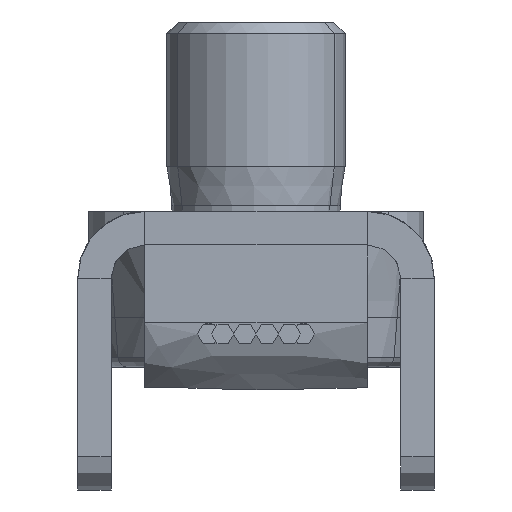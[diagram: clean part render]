
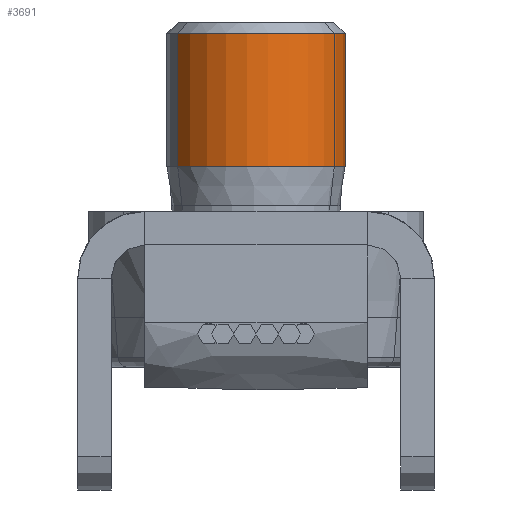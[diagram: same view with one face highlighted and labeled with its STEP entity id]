
A CAD part, front view. The second image highlights one B-rep face of the part: STEP entity #3691.
In plain terms, the highlighted cylindrical face has radius 0.8 mm (diameter 1.6 mm), a partial arc.
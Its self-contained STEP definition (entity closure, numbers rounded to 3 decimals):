
#3173=CARTESIAN_POINT('Vertex',(-1.8,-0.384,-0.702)) ;
#3180=CARTESIAN_POINT('Vertex',(-1.8,0.384,0.702)) ;
#3327=CARTESIAN_POINT('Axis2P3D Location',(-1.8,0.,0.)) ;
#3649=CARTESIAN_POINT('Axis2P3D Location',(-1.55,0.,0.)) ;
#3654=CARTESIAN_POINT('Line Origine',(-2.45,0.384,0.702)) ;
#3658=CARTESIAN_POINT('Vertex',(-3.,0.384,0.702)) ;
#3661=CARTESIAN_POINT('Line Origine',(-2.45,-0.384,-0.702)) ;
#3665=CARTESIAN_POINT('Vertex',(-3.,-0.384,-0.702)) ;
#3680=CARTESIAN_POINT('Axis2P3D Location',(-3.,0.,0.)) ;
#3328=DIRECTION('Axis2P3D Direction',(-1.,0.,0.)) ;
#3650=DIRECTION('Axis2P3D Direction',(-1.,0.,0.)) ;
#3651=DIRECTION('Axis2P3D XDirection',(0.,0.479,0.878)) ;
#3655=DIRECTION('Vector Direction',(-1.,0.,0.)) ;
#3662=DIRECTION('Vector Direction',(-1.,0.,0.)) ;
#3681=DIRECTION('Axis2P3D Direction',(-1.,0.,0.)) ;
#3329=AXIS2_PLACEMENT_3D('Circle Axis2P3D',#3327,#3328,$) ;
#3652=AXIS2_PLACEMENT_3D('Cylinder Axis2P3D',#3649,#3650,#3651) ;
#3682=AXIS2_PLACEMENT_3D('Circle Axis2P3D',#3680,#3681,$) ;
#3686=ORIENTED_EDGE('',*,*,#3667,.F.) ;
#3687=ORIENTED_EDGE('',*,*,#3331,.T.) ;
#3688=ORIENTED_EDGE('',*,*,#3660,.T.) ;
#3689=ORIENTED_EDGE('',*,*,#3684,.F.) ;
#3656=VECTOR('Line Direction',#3655,1.) ;
#3663=VECTOR('Line Direction',#3662,1.) ;
#3691=ADVANCED_FACE('PartBody',(#3690),#3653,.T.) ;
#3330=CIRCLE('generated circle',#3329,0.8) ;
#3683=CIRCLE('generated circle',#3682,0.8) ;
#3653=CYLINDRICAL_SURFACE('generated cylinder',#3652,0.8) ;
#3331=EDGE_CURVE('',#3174,#3181,#3330,.T.) ;
#3660=EDGE_CURVE('',#3181,#3659,#3657,.T.) ;
#3667=EDGE_CURVE('',#3174,#3666,#3664,.T.) ;
#3684=EDGE_CURVE('',#3666,#3659,#3683,.T.) ;
#3685=EDGE_LOOP('',(#3686,#3687,#3688,#3689)) ;
#3690=FACE_OUTER_BOUND('',#3685,.T.) ;
#3657=LINE('Line',#3654,#3656) ;
#3664=LINE('Line',#3661,#3663) ;
#3174=VERTEX_POINT('',#3173) ;
#3181=VERTEX_POINT('',#3180) ;
#3659=VERTEX_POINT('',#3658) ;
#3666=VERTEX_POINT('',#3665) ;
